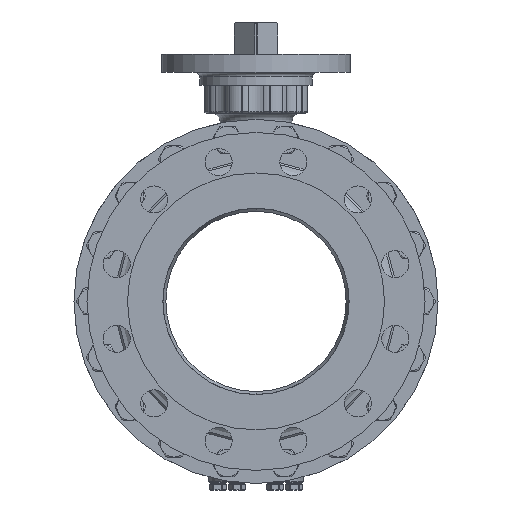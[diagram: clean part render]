
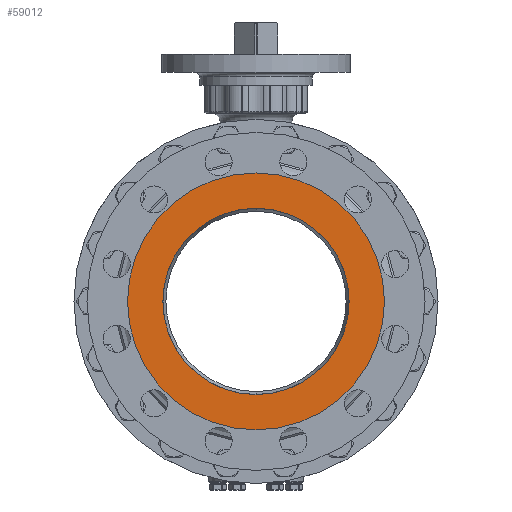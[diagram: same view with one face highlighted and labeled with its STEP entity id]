
A CAD part, left-side view. The second image highlights one B-rep face of the part: STEP entity #59012.
In plain terms, the highlighted planar face has unit normal (-1, 0, 0).
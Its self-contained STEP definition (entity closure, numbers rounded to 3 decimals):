
#4191=CARTESIAN_POINT('',(-251.,0.,0.));
#4192=DIRECTION('',(1.,0.,0.));
#4193=DIRECTION('',(0.,0.,1.));
#4194=AXIS2_PLACEMENT_3D('',#4191,#4192,#4193);
#4196=CARTESIAN_POINT('',(-251.,0.,0.));
#4197=DIRECTION('',(1.,0.,0.));
#4198=DIRECTION('',(0.,0.,-1.));
#4199=AXIS2_PLACEMENT_3D('',#4196,#4197,#4198);
#4201=CARTESIAN_POINT('',(-251.,0.,0.));
#4202=DIRECTION('',(1.,0.,0.));
#4203=DIRECTION('',(0.,0.,1.));
#4204=AXIS2_PLACEMENT_3D('',#4201,#4202,#4203);
#4206=CARTESIAN_POINT('',(-251.,0.,0.));
#4207=DIRECTION('',(-1.,0.,0.));
#4208=DIRECTION('',(0.,0.,1.));
#4209=AXIS2_PLACEMENT_3D('',#4206,#4207,#4208);
#48922=CARTESIAN_POINT('',(-251.,0.,103.35));
#48924=VERTEX_POINT('',#48922);
#48926=CARTESIAN_POINT('',(-251.,0.,-103.35));
#48928=VERTEX_POINT('',#48926);
#48957=CARTESIAN_POINT('',(-251.,0.,142.5));
#48958=CARTESIAN_POINT('',(-251.,0.,-142.5));
#48959=VERTEX_POINT('',#48957);
#48960=VERTEX_POINT('',#48958);
#58996=CARTESIAN_POINT('',(-251.,0.,0.));
#58997=DIRECTION('',(-1.,0.,0.));
#58998=DIRECTION('',(0.,0.,-1.));
#58999=AXIS2_PLACEMENT_3D('',#58996,#58997,#58998);
#59000=PLANE('',#58999);
#59002=ORIENTED_EDGE('',*,*,#59001,.T.);
#59003=ORIENTED_EDGE('',*,*,#58986,.T.);
#59004=EDGE_LOOP('',(#59002,#59003));
#59005=FACE_OUTER_BOUND('',#59004,.F.);
#59007=ORIENTED_EDGE('',*,*,#59006,.F.);
#59009=ORIENTED_EDGE('',*,*,#59008,.T.);
#59010=EDGE_LOOP('',(#59007,#59009));
#59011=FACE_BOUND('',#59010,.F.);
#59012=ADVANCED_FACE('',(#59005,#59011),#59000,.T.);
#4195=CIRCLE('',#4194,142.5);
#4200=CIRCLE('',#4199,142.5);
#4205=CIRCLE('',#4204,103.35);
#4210=CIRCLE('',#4209,103.35);
#58986=EDGE_CURVE('',#48960,#48959,#4200,.T.);
#59001=EDGE_CURVE('',#48959,#48960,#4195,.T.);
#59006=EDGE_CURVE('',#48924,#48928,#4205,.T.);
#59008=EDGE_CURVE('',#48924,#48928,#4210,.T.);
